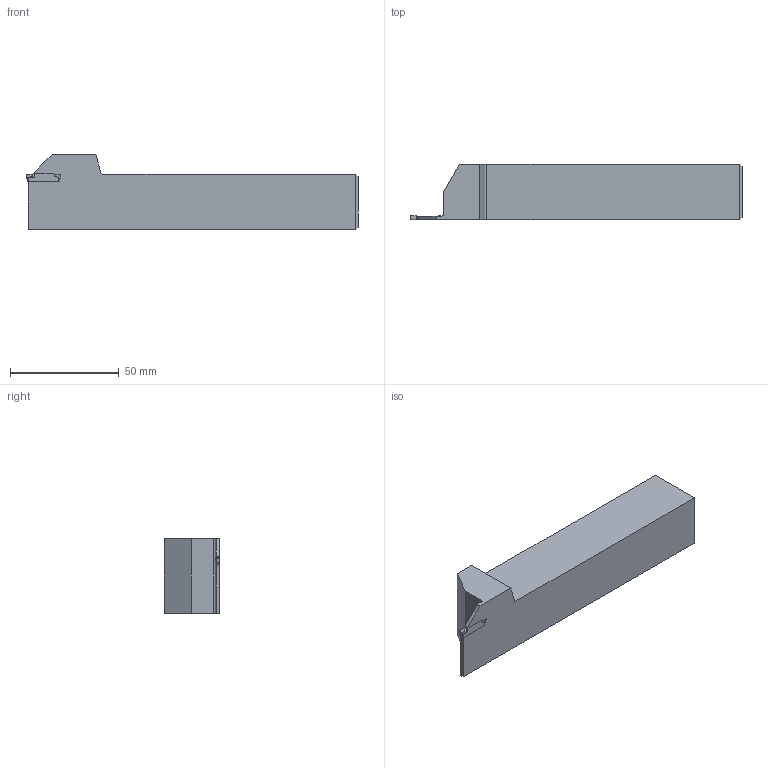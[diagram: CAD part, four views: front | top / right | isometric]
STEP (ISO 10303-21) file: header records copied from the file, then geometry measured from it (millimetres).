
FILE_DESCRIPTION(/* description */ (''),/* implementation_level */ '2;1');
FILE_NAME(/* name */ 'MGEHR16-2-HAAS_20200625.stp',/* time_stamp */ '2020-11-18T16:31:32+09:00',/* author */ (''),/* organization */ (''),/* preprocessor_version */ 'ST-DEVELOPER v11',/* originating_system */ 'SIEMENS UGS NX 6.0',/* authorisation */ '');
FILE_SCHEMA (('CONFIG_CONTROL_DESIGN'));
Length unit declared in the file: millimetre
Products named in the file (1): user1992z9wc
Bounding box: 152.4 x 25.65 x 34.4 mm (x, y, z)
Volume: 91570.5 mm3; surface area: 16658.3 mm2
Topology: 2 solids, 4 shells, 62 faces, 154 edges, 100 vertices
Faces by surface type: plane 46, cylinder 14, bspline 2
Entity records: 1958 total; most frequent: CARTESIAN_POINT 399, ORIENTED_EDGE 308, DIRECTION 294, EDGE_CURVE 154, LINE 116, VECTOR 116, VERTEX_POINT 100, AXIS2_PLACEMENT_3D 89
